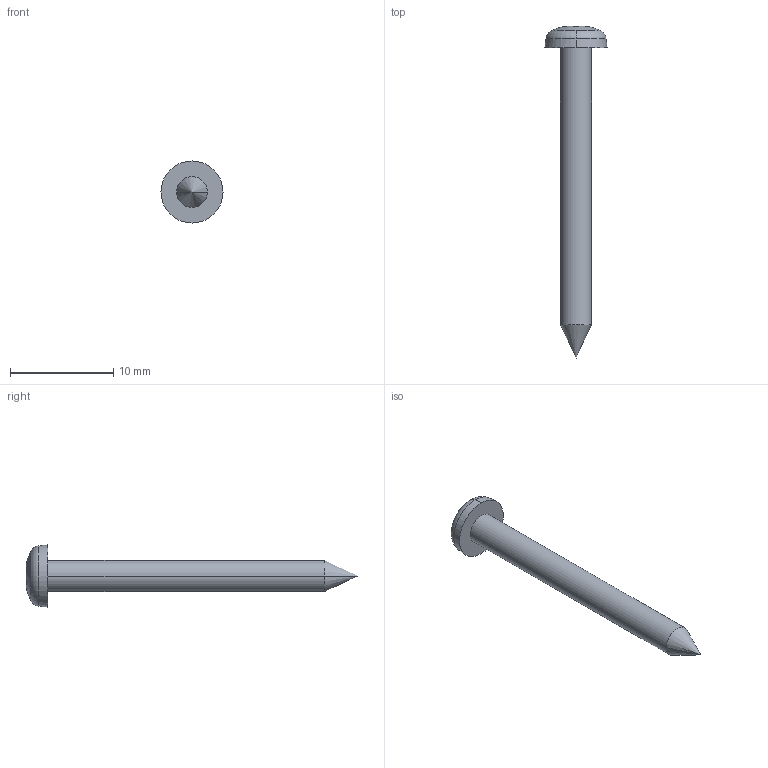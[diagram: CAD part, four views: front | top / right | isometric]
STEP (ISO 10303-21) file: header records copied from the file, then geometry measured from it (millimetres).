
FILE_DESCRIPTION (( 'STEP AP203' ), '1' );
FILE_NAME ('Profilschraube - Innenblende F8 Crystal - P009807400.step', '2022-09-22T14:01:58', ( '' ), ( '' ), 'SwSTEP 2.0', 'SolidWorks 2021', '' );
FILE_SCHEMA (( 'CONFIG_CONTROL_DESIGN' ));
Length unit declared in the file: millimetre
Products named in the file (1): Profilschraube - Innenblende F8 Crystal - P009807400
Bounding box: 6 x 32.11 x 6 mm (x, y, z)
Volume: 238.8 mm3; surface area: 353.8 mm2
Topology: 1 solids, 1 shells, 29 faces, 77 edges, 49 vertices
Faces by surface type: cylinder 19, cone 4, torus 2, sphere 2, plane 2
Entity records: 1036 total; most frequent: CARTESIAN_POINT 253, ORIENTED_EDGE 150, DIRECTION 149, EDGE_CURVE 75, AXIS2_PLACEMENT_3D 63, VERTEX_POINT 49, CIRCLE 33, EDGE_LOOP 30
